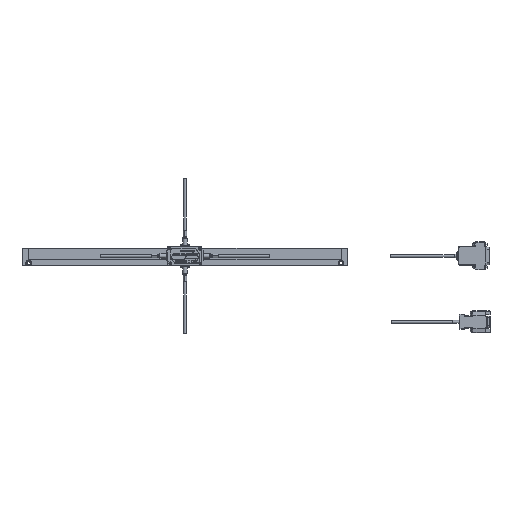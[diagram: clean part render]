
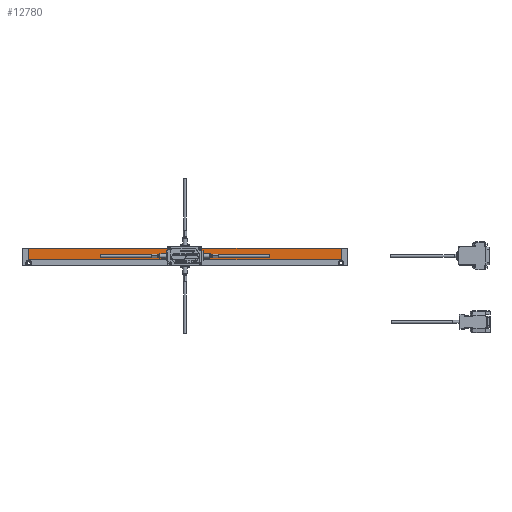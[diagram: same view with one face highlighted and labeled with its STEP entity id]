
A CAD part, top view. The second image highlights one B-rep face of the part: STEP entity #12780.
In plain terms, the highlighted planar face has unit normal (0, 0, 1) as drawn and (0, 1, 0) by its records, which use the part's own axes.
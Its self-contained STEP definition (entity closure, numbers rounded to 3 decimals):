
#2060=CARTESIAN_POINT('',(-737.159,0.7,
63.571));
#2070=VERTEX_POINT('',#2060);
#2100=CARTESIAN_POINT('',(-97.159,0.7,
63.571));
#2110=DIRECTION('',(-1.,0.,0.));
#2120=VECTOR('',#2110,1.);
#2130=LINE('',#2100,#2120);
#2140=CARTESIAN_POINT('',(-1197.159,0.7,
63.571));
#2150=VERTEX_POINT('',#2140);
#2160=EDGE_CURVE('',#2070,#2150,#2130,.T.);
#3840=CARTESIAN_POINT('',(-1197.159,0.7,
81.171));
#3850=VERTEX_POINT('',#3840);
#3950=CARTESIAN_POINT('',(-1197.159,0.7,0.));
#3960=DIRECTION('',(0.,0.,-1.));
#3970=VECTOR('',#3960,1.);
#3980=LINE('',#3950,#3970);
#3990=EDGE_CURVE('',#3850,#2150,#3980,.T.);
#10560=CARTESIAN_POINT('',(-737.159,0.7,
81.171));
#10570=VERTEX_POINT('',#10560);
#10600=CARTESIAN_POINT('',(-737.159,0.7,0.));
#10610=DIRECTION('',(0.,0.,1.));
#10620=VECTOR('',#10610,1.);
#10630=LINE('',#10600,#10620);
#10640=EDGE_CURVE('',#2070,#10570,#10630,.T.);
#12580=CARTESIAN_POINT('',(1200.,0.7,81.171));
#12590=DIRECTION('',(1.,0.,0.));
#12600=VECTOR('',#12590,1.);
#12610=LINE('',#12580,#12600);
#12620=EDGE_CURVE('',#3850,#10570,#12610,.T.);
#12670=CARTESIAN_POINT('',(1141.66,0.7,
71.845));
#12680=DIRECTION('',(0.,1.,-0.));
#12690=DIRECTION('',(-1.,0.,0.));
#12700=AXIS2_PLACEMENT_3D('',#12670,#12680,#12690);
#12710=PLANE('',#12700);
#12720=ORIENTED_EDGE('',*,*,#12620,.T.);
#12730=ORIENTED_EDGE('',*,*,#3990,.F.);
#12740=ORIENTED_EDGE('',*,*,#2160,.T.);
#12750=ORIENTED_EDGE('',*,*,#10640,.F.);
#12760=EDGE_LOOP('',(#12750,#12740,#12730,#12720));
#12770=FACE_OUTER_BOUND('',#12760,.T.);
#12780=ADVANCED_FACE('',(#12770),#12710,.T.);
